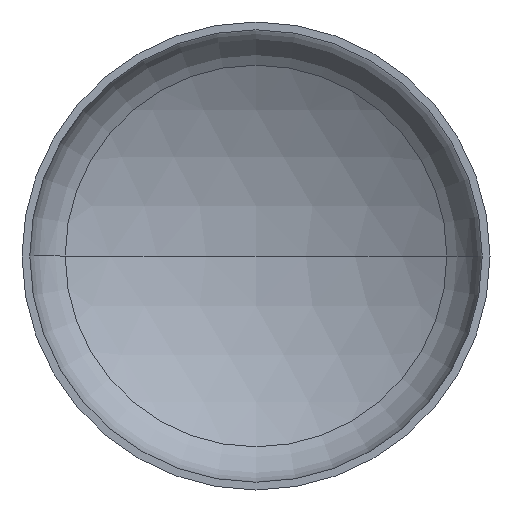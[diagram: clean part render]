
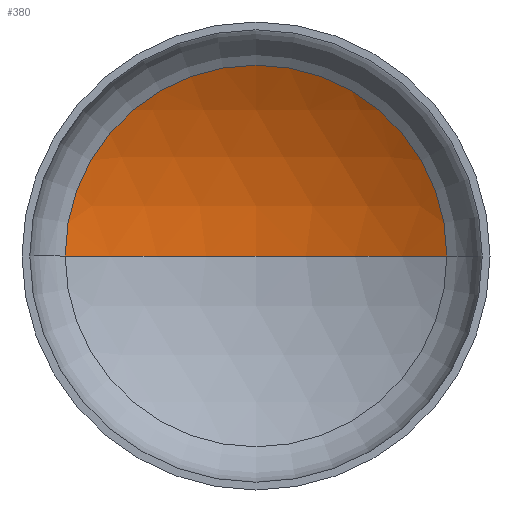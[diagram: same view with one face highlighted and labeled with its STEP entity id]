
A CAD part, front view. The second image highlights one B-rep face of the part: STEP entity #380.
In plain terms, the highlighted spherical face has radius 960 mm.
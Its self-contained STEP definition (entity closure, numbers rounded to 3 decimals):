
#5 = AXIS2_PLACEMENT_3D ( 'NONE', #225, #391, #251 ) ;
#7 = AXIS2_PLACEMENT_3D ( 'NONE', #288, #149, #316 ) ;
#17 = ORIENTED_EDGE ( 'NONE', *, *, #368, .T. ) ;
#39 = VERTEX_POINT ( 'NONE', #277 ) ;
#61 = ORIENTED_EDGE ( 'NONE', *, *, #363, .T. ) ;
#63 = VERTEX_POINT ( 'NONE', #209 ) ;
#79 = EDGE_LOOP ( 'NONE', ( #292, #61, #17 ) ) ;
#87 = VERTEX_POINT ( 'NONE', #348 ) ;
#96 = CARTESIAN_POINT ( 'NONE',  ( 0., -606.783, 0. ) ) ;
#146 = AXIS2_PLACEMENT_3D ( 'NONE', #178, #340, #264 ) ;
#149 = DIRECTION ( 'NONE',  ( 0., 0., 1. ) ) ;
#158 = CIRCLE ( 'NONE', #5, 960. ) ;
#169 = DIRECTION ( 'NONE',  ( -1., 0., 0. ) ) ;
#178 = CARTESIAN_POINT ( 'NONE',  ( 0., 219.168, 0. ) ) ;
#203 = AXIS2_PLACEMENT_3D ( 'NONE', #96, #320, #169 ) ;
#209 = CARTESIAN_POINT ( 'NONE',  ( 489.29, 219.168, 0. ) ) ;
#220 = CIRCLE ( 'NONE', #146, 489.29 ) ;
#225 = CARTESIAN_POINT ( 'NONE',  ( 0., -606.783, 0. ) ) ;
#251 = DIRECTION ( 'NONE',  ( -1., 0., 0. ) ) ;
#264 = DIRECTION ( 'NONE',  ( 1., 0., 0. ) ) ;
#271 = SPHERICAL_SURFACE ( 'NONE', #203, 960. ) ;
#277 = CARTESIAN_POINT ( 'NONE',  ( 0., 353.217, 0. ) ) ;
#288 = CARTESIAN_POINT ( 'NONE',  ( 0., -606.783, 0. ) ) ;
#292 = ORIENTED_EDGE ( 'NONE', *, *, #343, .F. ) ;
#316 = DIRECTION ( 'NONE',  ( 1., 0., 0. ) ) ;
#320 = DIRECTION ( 'NONE',  ( 0., 0., -1. ) ) ;
#340 = DIRECTION ( 'NONE',  ( 0., -1., 0. ) ) ;
#343 = EDGE_CURVE ( 'NONE', #39, #87, #344, .T. ) ;
#344 = CIRCLE ( 'NONE', #7, 960. ) ;
#348 = CARTESIAN_POINT ( 'NONE',  ( -489.29, 219.168, 0. ) ) ;
#363 = EDGE_CURVE ( 'NONE', #39, #63, #158, .T. ) ;
#368 = EDGE_CURVE ( 'NONE', #63, #87, #220, .T. ) ;
#380 = ADVANCED_FACE ( 'NONE', ( #397 ), #271, .F. ) ;
#391 = DIRECTION ( 'NONE',  ( 0., 0., -1. ) ) ;
#397 = FACE_OUTER_BOUND ( 'NONE', #79, .T. ) ;
